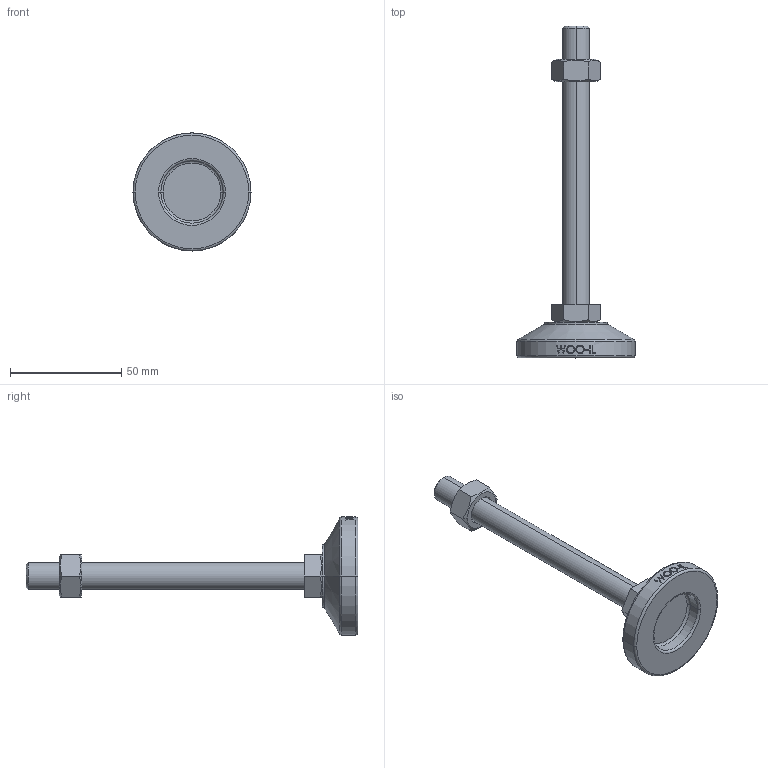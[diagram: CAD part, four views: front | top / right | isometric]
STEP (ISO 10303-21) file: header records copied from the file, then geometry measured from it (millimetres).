
FILE_DESCRIPTION (( 'STEP AP214' ), '1' );
FILE_NAME ('MF53-M12-125.step', '2021-02-03T08:16:19', ( '' ), ( '' ), 'SwSTEP 2.0', 'SolidWorks 2019', '' );
FILE_SCHEMA (( 'AUTOMOTIVE_DESIGN' ));
Length unit declared in the file: millimetre
Products named in the file (2): MF53-M12-125
Bounding box: 53 x 149 x 53 mm (x, y, z)
Volume: 42263.1 mm3; surface area: 13662.5 mm2
Topology: 3 solids, 3 shells, 106 faces, 243 edges, 154 vertices
Faces by surface type: plane 48, cylinder 18, bspline 16, cone 14, torus 10
Entity records: 4394 total; most frequent: CARTESIAN_POINT 2051, ORIENTED_EDGE 486, DIRECTION 439, EDGE_CURVE 243, AXIS2_PLACEMENT_3D 170, VERTEX_POINT 154, EDGE_LOOP 119, ADVANCED_FACE 106
